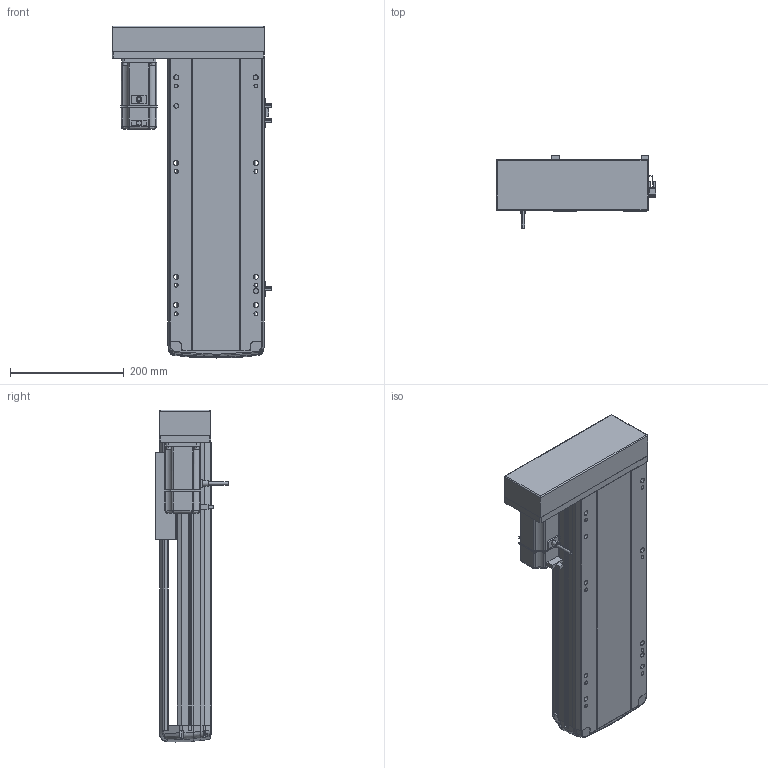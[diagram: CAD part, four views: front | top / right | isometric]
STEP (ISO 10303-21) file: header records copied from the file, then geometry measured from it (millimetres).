
FILE_DESCRIPTION (( 'STEP AP214' ), '1' );
FILE_NAME ('RTH17-XX-300-R-M40-C4.STEP', '2025-10-24T08:53:40', ( '' ), ( '' ), 'SwSTEP 2.0', 'SolidWorks 2018', '' );
FILE_SCHEMA (( 'AUTOMOTIVE_DESIGN' ));
Length unit declared in the file: millimetre
Products named in the file (10): N_RTH17-M-011底座^RTH17-XX-XX-R-M40-C4（方程式）; RTH17-XX-300-R-M40-C4; N_RTH17-L-008-P40电机安装板左转折^RTH17-XX-XX-R-M40-C4（方程式）; N_RTH17-GY-001P^RTH17-XX-XX-R-M40-C4（方程式）; N_RTH-BL-012 感应片(外置)^RTH17-XX-XX-R-M40-C4（方程式）; N_RTH17-E-004丝杆螺母连接座^RTH17-XX-XX-R-M40-C4（方程式）; N_OMRON EE-SX672 換覜ん^RTH17-XX-XX-R-M40-C4ㄗ源最宒ㄘ; N_M40^RTH17-XX-XX-R-M40-C4（方程式）; N_RTH17-L-018盖子^RTH17-XX-XX-R-M40-C4（方程式）; N_RTH17-M-007上盖^RTH17-XX-XX-R-M40-C4（方程式）
Assembly tree (11 placements, depth 2):
  RTH17-XX-300-R-M40-C4
    N_RTH17-M-011底座^RTH17-XX-XX-R-M40-C4（方程式）
    N_RTH17-M-007上盖^RTH17-XX-XX-R-M40-C4（方程式）
    N_M40^RTH17-XX-XX-R-M40-C4（方程式）
    N_OMRON EE-SX672 換覜ん^RTH17-XX-XX-R-M40-C4ㄗ源最宒ㄘ  x3
    N_RTH-BL-012 感应片(外置)^RTH17-XX-XX-R-M40-C4（方程式）
    N_RTH17-L-008-P40电机安装板左转折^RTH17-XX-XX-R-M40-C4（方程式）
    N_RTH17-L-018盖子^RTH17-XX-XX-R-M40-C4（方程式）
    N_RTH17-E-004丝杆螺母连接座^RTH17-XX-XX-R-M40-C4（方程式）
    N_RTH17-GY-001P^RTH17-XX-XX-R-M40-C4（方程式）
Bounding box: 280.5 x 127 x 583.07 mm (x, y, z)
Volume: 6008688.2 mm3; surface area: 786512.8 mm2
Topology: 13 solids, 15 shells, 1631 faces, 4521 edges, 2946 vertices
Faces by surface type: plane 831, cylinder 433, bspline 330, cone 28, torus 9
Entity records: 47114 total; most frequent: CARTESIAN_POINT 19127, ORIENTED_EDGE 6066, DIRECTION 4999, EDGE_CURVE 3037, VERTEX_POINT 1982, LINE 1729, VECTOR 1729, AXIS2_PLACEMENT_3D 1635
